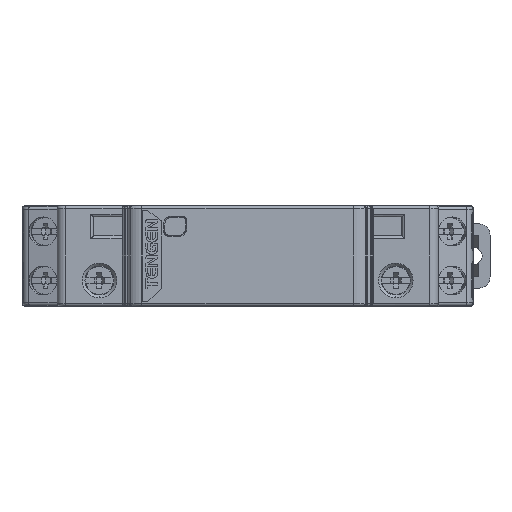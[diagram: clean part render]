
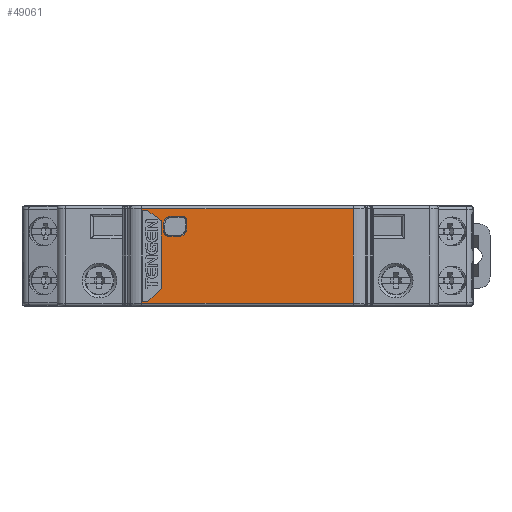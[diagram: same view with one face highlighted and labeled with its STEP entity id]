
A CAD part, left-side view. The second image highlights one B-rep face of the part: STEP entity #49061.
In plain terms, the highlighted planar face has unit normal (-1, 0, 0) as drawn and (0, 1, 0) by its records, which use the part's own axes.
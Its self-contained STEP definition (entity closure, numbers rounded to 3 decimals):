
#84 = VERTEX_POINT ( 'NONE', #8559 ) ;
#242 = EDGE_LOOP ( 'NONE', ( #59134, #67446, #73253, #30637, #78924, #32507 ) ) ;
#608 = ORIENTED_EDGE ( 'NONE', *, *, #16282, .F. ) ;
#1428 = CARTESIAN_POINT ( 'NONE',  ( 17.91, 68., 8.1 ) ) ;
#2705 = CARTESIAN_POINT ( 'NONE',  ( 15.47, 68., -5.856 ) ) ;
#3047 = DIRECTION ( 'NONE',  ( 1., 0., 0. ) ) ;
#3211 = CARTESIAN_POINT ( 'NONE',  ( 15.05, 68., 5.85 ) ) ;
#3746 = EDGE_LOOP ( 'NONE', ( #26358, #36705, #65941, #8764 ) ) ;
#4249 = EDGE_CURVE ( 'NONE', #94669, #76267, #89115, .T. ) ;
#4577 = CARTESIAN_POINT ( 'NONE',  ( 10.95, 68., 4.85 ) ) ;
#5571 = DIRECTION ( 'NONE',  ( 0., 1., 0. ) ) ;
#5910 = CARTESIAN_POINT ( 'NONE',  ( -19., 68., -8.5 ) ) ;
#6766 = EDGE_CURVE ( 'NONE', #18172, #30279, #11937, .T. ) ;
#7883 = CARTESIAN_POINT ( 'NONE',  ( 18.94, 68., 8.1 ) ) ;
#8559 = CARTESIAN_POINT ( 'NONE',  ( 15.47, 68., -5.856 ) ) ;
#8764 = ORIENTED_EDGE ( 'NONE', *, *, #4249, .F. ) ;
#11327 = VERTEX_POINT ( 'NONE', #4577 ) ;
#11937 = LINE ( 'NONE', #42688, #60936 ) ;
#13313 = CARTESIAN_POINT ( 'NONE',  ( 18.94, 68., -8.1 ) ) ;
#13795 = DIRECTION ( 'NONE',  ( 0.807, 0., 0.591 ) ) ;
#13909 = VECTOR ( 'NONE', #50624, 1000. ) ;
#14808 = CARTESIAN_POINT ( 'NONE',  ( 13.75, 68., 7.15 ) ) ;
#14973 = CARTESIAN_POINT ( 'NONE',  ( 17.91, 68., -8.1 ) ) ;
#16282 = EDGE_CURVE ( 'NONE', #32505, #18172, #47204, .T. ) ;
#17665 = DIRECTION ( 'NONE',  ( 0., 1., 0. ) ) ;
#18172 = VERTEX_POINT ( 'NONE', #3211 ) ;
#18964 = CIRCLE ( 'NONE', #51102, 0.7 ) ;
#19027 = VECTOR ( 'NONE', #83027, 1000. ) ;
#19171 = DIRECTION ( 'NONE',  ( 0., 0., 1. ) ) ;
#19290 = DIRECTION ( 'NONE',  ( 0., 0., 1. ) ) ;
#19352 = VERTEX_POINT ( 'NONE', #95919 ) ;
#19808 = AXIS2_PLACEMENT_3D ( 'NONE', #21250, #20772, #19290 ) ;
#19834 = DIRECTION ( 'NONE',  ( 1., 0., 0. ) ) ;
#20018 = VECTOR ( 'NONE', #58808, 1000. ) ;
#20772 = DIRECTION ( 'NONE',  ( 0., 1., 0. ) ) ;
#21136 = LINE ( 'NONE', #81613, #75026 ) ;
#21211 = ORIENTED_EDGE ( 'NONE', *, *, #6766, .F. ) ;
#21250 = CARTESIAN_POINT ( 'NONE',  ( 13.75, 68., 5.85 ) ) ;
#21414 = VERTEX_POINT ( 'NONE', #56633 ) ;
#23025 = VERTEX_POINT ( 'NONE', #24146 ) ;
#24146 = CARTESIAN_POINT ( 'NONE',  ( 12.25, 68., 3.55 ) ) ;
#25021 = EDGE_CURVE ( 'NONE', #80089, #87168, #44733, .T. ) ;
#26358 = ORIENTED_EDGE ( 'NONE', *, *, #99065, .T. ) ;
#27357 = CARTESIAN_POINT ( 'NONE',  ( 17.91, 68., -8.1 ) ) ;
#27380 = CARTESIAN_POINT ( 'NONE',  ( 14.35, 68., 3.55 ) ) ;
#27402 = CARTESIAN_POINT ( 'NONE',  ( -22.5, 68., 9. ) ) ;
#28620 = LINE ( 'NONE', #14973, #19027 ) ;
#29966 = CARTESIAN_POINT ( 'NONE',  ( 19., 68., -8.5 ) ) ;
#30052 = CARTESIAN_POINT ( 'NONE',  ( 11.65, 68., 7.15 ) ) ;
#30279 = VERTEX_POINT ( 'NONE', #96535 ) ;
#30637 = ORIENTED_EDGE ( 'NONE', *, *, #31382, .F. ) ;
#31382 = EDGE_CURVE ( 'NONE', #84, #21414, #80300, .T. ) ;
#31555 = LINE ( 'NONE', #7883, #94248 ) ;
#31880 = EDGE_CURVE ( 'NONE', #23025, #11327, #97516, .T. ) ;
#32505 = VERTEX_POINT ( 'NONE', #14808 ) ;
#32507 = ORIENTED_EDGE ( 'NONE', *, *, #77856, .F. ) ;
#33306 = CARTESIAN_POINT ( 'NONE',  ( 19., 68., 8.5 ) ) ;
#33373 = EDGE_CURVE ( 'NONE', #77487, #81819, #31555, .T. ) ;
#34278 = LINE ( 'NONE', #72550, #95815 ) ;
#35256 = VERTEX_POINT ( 'NONE', #33306 ) ;
#35679 = LINE ( 'NONE', #66370, #20018 ) ;
#35765 = ORIENTED_EDGE ( 'NONE', *, *, #58853, .F. ) ;
#36254 = CARTESIAN_POINT ( 'NONE',  ( 18.94, 68., -8.1 ) ) ;
#36487 = CARTESIAN_POINT ( 'NONE',  ( 15.47, 68., 6.314 ) ) ;
#36705 = ORIENTED_EDGE ( 'NONE', *, *, #87925, .F. ) ;
#38132 = DIRECTION ( 'NONE',  ( 0., 0., -1. ) ) ;
#40014 = VECTOR ( 'NONE', #78181, 1000. ) ;
#41848 = CARTESIAN_POINT ( 'NONE',  ( 14.35, 68., 4.25 ) ) ;
#42688 = CARTESIAN_POINT ( 'NONE',  ( 15.05, 68., 5.85 ) ) ;
#44733 = CIRCLE ( 'NONE', #86514, 0.7 ) ;
#45356 = EDGE_CURVE ( 'NONE', #93726, #84, #28620, .T. ) ;
#45855 = EDGE_CURVE ( 'NONE', #75291, #77487, #62530, .T. ) ;
#46005 = CARTESIAN_POINT ( 'NONE',  ( 10.95, 68., 6.45 ) ) ;
#46389 = VERTEX_POINT ( 'NONE', #67831 ) ;
#46924 = ORIENTED_EDGE ( 'NONE', *, *, #63475, .F. ) ;
#47165 = DIRECTION ( 'NONE',  ( 1., 0., 0. ) ) ;
#47204 = CIRCLE ( 'NONE', #19808, 1.3 ) ;
#48569 = DIRECTION ( 'NONE',  ( 0., 0., 1. ) ) ;
#49044 = VECTOR ( 'NONE', #58083, 1000. ) ;
#49061 = ADVANCED_FACE ( 'NONE', ( #65665, #78921, #96408 ), #59078, .T. ) ;
#49824 = DIRECTION ( 'NONE',  ( 1., 0., 0. ) ) ;
#50624 = DIRECTION ( 'NONE',  ( -1., 0., 0. ) ) ;
#50931 = CARTESIAN_POINT ( 'NONE',  ( 12.25, 68., 4.85 ) ) ;
#51102 = AXIS2_PLACEMENT_3D ( 'NONE', #41848, #17665, #3047 ) ;
#51588 = EDGE_CURVE ( 'NONE', #19352, #23025, #65641, .T. ) ;
#52292 = ORIENTED_EDGE ( 'NONE', *, *, #31880, .F. ) ;
#54626 = EDGE_LOOP ( 'NONE', ( #608, #46924, #68422, #35765, #52292, #98884, #71006, #21211 ) ) ;
#55435 = VECTOR ( 'NONE', #91441, 1000. ) ;
#55561 = VECTOR ( 'NONE', #48569, 1000. ) ;
#56633 = CARTESIAN_POINT ( 'NONE',  ( 15.47, 68., 6.314 ) ) ;
#57508 = EDGE_CURVE ( 'NONE', #76267, #35256, #98974, .T. ) ;
#58083 = DIRECTION ( 'NONE',  ( -1., 0., 0. ) ) ;
#58808 = DIRECTION ( 'NONE',  ( -1., 0., 0. ) ) ;
#58853 = EDGE_CURVE ( 'NONE', #11327, #80089, #34278, .T. ) ;
#58872 = AXIS2_PLACEMENT_3D ( 'NONE', #50931, #5571, #73598 ) ;
#59078 = PLANE ( 'NONE',  #66182 ) ;
#59134 = ORIENTED_EDGE ( 'NONE', *, *, #33373, .F. ) ;
#60796 = VECTOR ( 'NONE', #47165, 1000. ) ;
#60936 = VECTOR ( 'NONE', #65822, 1000. ) ;
#62530 = LINE ( 'NONE', #93283, #40014 ) ;
#63475 = EDGE_CURVE ( 'NONE', #87168, #32505, #84455, .T. ) ;
#65641 = LINE ( 'NONE', #27380, #49044 ) ;
#65665 = FACE_BOUND ( 'NONE', #242, .T. ) ;
#65822 = DIRECTION ( 'NONE',  ( 0., 0., -1. ) ) ;
#65911 = CARTESIAN_POINT ( 'NONE',  ( -19., 68., -8.5 ) ) ;
#65941 = ORIENTED_EDGE ( 'NONE', *, *, #57508, .F. ) ;
#66182 = AXIS2_PLACEMENT_3D ( 'NONE', #27402, #82292, #19834 ) ;
#66370 = CARTESIAN_POINT ( 'NONE',  ( 19., 68., 8.5 ) ) ;
#67446 = ORIENTED_EDGE ( 'NONE', *, *, #45855, .F. ) ;
#67831 = CARTESIAN_POINT ( 'NONE',  ( -19., 68., 8.5 ) ) ;
#68422 = ORIENTED_EDGE ( 'NONE', *, *, #25021, .F. ) ;
#70461 = VECTOR ( 'NONE', #49824, 1000. ) ;
#71006 = ORIENTED_EDGE ( 'NONE', *, *, #74773, .F. ) ;
#71492 = VECTOR ( 'NONE', #13795, 1000. ) ;
#71565 = DIRECTION ( 'NONE',  ( 0., 1., 0. ) ) ;
#72550 = CARTESIAN_POINT ( 'NONE',  ( 10.95, 68., 4.85 ) ) ;
#73253 = ORIENTED_EDGE ( 'NONE', *, *, #88031, .F. ) ;
#73598 = DIRECTION ( 'NONE',  ( 0., 0., -1. ) ) ;
#73782 = LINE ( 'NONE', #36487, #71492 ) ;
#74051 = DIRECTION ( 'NONE',  ( 0., 0., 1. ) ) ;
#74773 = EDGE_CURVE ( 'NONE', #30279, #19352, #18964, .T. ) ;
#75026 = VECTOR ( 'NONE', #74051, 1000. ) ;
#75291 = VERTEX_POINT ( 'NONE', #1428 ) ;
#76267 = VERTEX_POINT ( 'NONE', #81626 ) ;
#77487 = VERTEX_POINT ( 'NONE', #98060 ) ;
#77856 = EDGE_CURVE ( 'NONE', #81819, #93726, #88926, .T. ) ;
#77891 = CARTESIAN_POINT ( 'NONE',  ( 11.65, 68., 7.15 ) ) ;
#78181 = DIRECTION ( 'NONE',  ( 1., 0., 0. ) ) ;
#78921 = FACE_BOUND ( 'NONE', #54626, .T. ) ;
#78924 = ORIENTED_EDGE ( 'NONE', *, *, #45356, .F. ) ;
#80089 = VERTEX_POINT ( 'NONE', #46005 ) ;
#80300 = LINE ( 'NONE', #2705, #55561 ) ;
#81613 = CARTESIAN_POINT ( 'NONE',  ( -19., 68., -8.5 ) ) ;
#81626 = CARTESIAN_POINT ( 'NONE',  ( 19., 68., -8.5 ) ) ;
#81819 = VERTEX_POINT ( 'NONE', #36254 ) ;
#82292 = DIRECTION ( 'NONE',  ( 0., 1., 0. ) ) ;
#83027 = DIRECTION ( 'NONE',  ( -0.736, 0., 0.677 ) ) ;
#84455 = LINE ( 'NONE', #30052, #60796 ) ;
#86514 = AXIS2_PLACEMENT_3D ( 'NONE', #86701, #71565, #95750 ) ;
#86701 = CARTESIAN_POINT ( 'NONE',  ( 11.65, 68., 6.45 ) ) ;
#87168 = VERTEX_POINT ( 'NONE', #77891 ) ;
#87925 = EDGE_CURVE ( 'NONE', #35256, #46389, #35679, .T. ) ;
#88031 = EDGE_CURVE ( 'NONE', #21414, #75291, #73782, .T. ) ;
#88926 = LINE ( 'NONE', #13313, #13909 ) ;
#89115 = LINE ( 'NONE', #65911, #70461 ) ;
#91441 = DIRECTION ( 'NONE',  ( 0., 0., 1. ) ) ;
#93283 = CARTESIAN_POINT ( 'NONE',  ( 17.91, 68., 8.1 ) ) ;
#93726 = VERTEX_POINT ( 'NONE', #27357 ) ;
#94248 = VECTOR ( 'NONE', #38132, 1000. ) ;
#94669 = VERTEX_POINT ( 'NONE', #5910 ) ;
#95750 = DIRECTION ( 'NONE',  ( -1., 0., 0. ) ) ;
#95815 = VECTOR ( 'NONE', #19171, 1000. ) ;
#95919 = CARTESIAN_POINT ( 'NONE',  ( 14.35, 68., 3.55 ) ) ;
#96408 = FACE_OUTER_BOUND ( 'NONE', #3746, .T. ) ;
#96535 = CARTESIAN_POINT ( 'NONE',  ( 15.05, 68., 4.25 ) ) ;
#97516 = CIRCLE ( 'NONE', #58872, 1.3 ) ;
#98060 = CARTESIAN_POINT ( 'NONE',  ( 18.94, 68., 8.1 ) ) ;
#98884 = ORIENTED_EDGE ( 'NONE', *, *, #51588, .F. ) ;
#98974 = LINE ( 'NONE', #29966, #55435 ) ;
#99065 = EDGE_CURVE ( 'NONE', #94669, #46389, #21136, .T. ) ;
